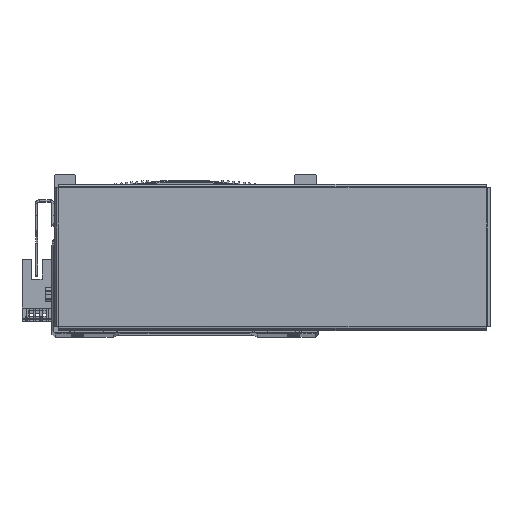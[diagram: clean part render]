
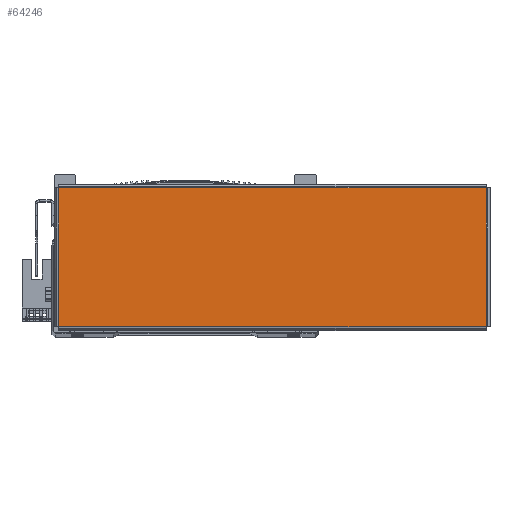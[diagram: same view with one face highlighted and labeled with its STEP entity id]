
A CAD part, top view. The second image highlights one B-rep face of the part: STEP entity #64246.
In plain terms, the highlighted planar face has unit normal (0, 0, 1) as drawn and (0, 0, -1) by its records, which use the part's own axes.
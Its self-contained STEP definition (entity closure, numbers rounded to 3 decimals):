
#4365 = VERTEX_POINT ( 'NONE', #81063 ) ;
#4399 = VERTEX_POINT ( 'NONE', #81142 ) ;
#4477 = VERTEX_POINT ( 'NONE', #81217 ) ;
#4487 = VERTEX_POINT ( 'NONE', #81231 ) ;
#51125 = AXIS2_PLACEMENT_3D ( 'NONE', #56448, #56434, #56483 ) ;
#51525 = EDGE_LOOP ( 'NONE', ( #67384, #67405, #67362, #67353 ) ) ;
#56434 = DIRECTION ( 'NONE',  ( 0., 0., 1. ) ) ;
#56448 = CARTESIAN_POINT ( 'NONE',  ( 0., 0., -1. ) ) ;
#56452 = PLANE ( 'NONE',  #51125 ) ;
#56483 = DIRECTION ( 'NONE',  ( 1., 0., 0. ) ) ;
#58254 = EDGE_CURVE ( 'NONE', #4477, #4399, #82545, .T. ) ;
#58274 = EDGE_CURVE ( 'NONE', #4365, #4487, #82665, .T. ) ;
#58286 = EDGE_CURVE ( 'NONE', #4399, #4365, #82675, .T. ) ;
#58364 = EDGE_CURVE ( 'NONE', #4487, #4477, #82898, .T. ) ;
#63323 = FACE_OUTER_BOUND ( 'NONE', #51525, .T. ) ;
#64246 = ADVANCED_FACE ( 'NONE', ( #63323 ), #56452, .F. ) ;
#67353 = ORIENTED_EDGE ( 'NONE', *, *, #58254, .T. ) ;
#67362 = ORIENTED_EDGE ( 'NONE', *, *, #58364, .T. ) ;
#67384 = ORIENTED_EDGE ( 'NONE', *, *, #58286, .T. ) ;
#67405 = ORIENTED_EDGE ( 'NONE', *, *, #58274, .T. ) ;
#79723 = CARTESIAN_POINT ( 'NONE',  ( -97.893, 31.763, -1. ) ) ;
#79758 = DIRECTION ( 'NONE',  ( 1., 0., 0. ) ) ;
#79818 = CARTESIAN_POINT ( 'NONE',  ( 97.893, -31.763, -1. ) ) ;
#79824 = DIRECTION ( 'NONE',  ( -1., 0., 0. ) ) ;
#79832 = CARTESIAN_POINT ( 'NONE',  ( 97.863, 31.793, -1. ) ) ;
#79852 = DIRECTION ( 'NONE',  ( 0., -1., 0. ) ) ;
#80092 = CARTESIAN_POINT ( 'NONE',  ( -97.863, -31.793, -1. ) ) ;
#80099 = DIRECTION ( 'NONE',  ( 0., 1., 0. ) ) ;
#81063 = CARTESIAN_POINT ( 'NONE',  ( 97.863, -31.763, -1. ) ) ;
#81142 = CARTESIAN_POINT ( 'NONE',  ( 97.863, 31.763, -1. ) ) ;
#81217 = CARTESIAN_POINT ( 'NONE',  ( -97.863, 31.763, -1. ) ) ;
#81231 = CARTESIAN_POINT ( 'NONE',  ( -97.863, -31.763, -1. ) ) ;
#82545 = LINE ( 'NONE', #79723, #82603 ) ;
#82603 = VECTOR ( 'NONE', #79758, 1000. ) ;
#82665 = LINE ( 'NONE', #79818, #82713 ) ;
#82675 = LINE ( 'NONE', #79832, #82720 ) ;
#82713 = VECTOR ( 'NONE', #79824, 1000. ) ;
#82720 = VECTOR ( 'NONE', #79852, 1000. ) ;
#82898 = LINE ( 'NONE', #80092, #82989 ) ;
#82989 = VECTOR ( 'NONE', #80099, 1000. ) ;
